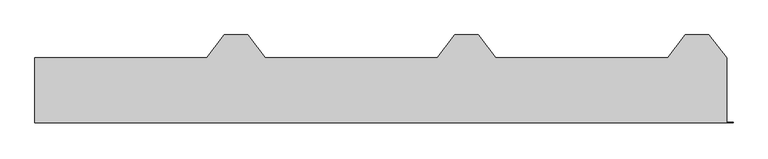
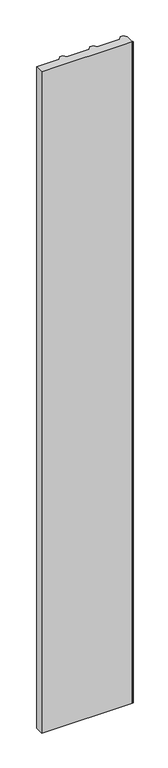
"""IFC4 building model written with IfcOpenShell, lengths in millimetres: plate geometry, Europanels_PolDeck MD T_Vt : PolDeck MD T 100/135."""

import ifcopenshell
import ifcopenshell.guid

model = None  # the IFC model being written
_history = None  # IfcOwnerHistory: only IFC2X3 demands one
_inside = {}  # id of a spatial element -> (the spatial element, [elements in it])
_under = {}  # id of a project, library or spatial element -> (it, [spatial elements below it])
_declared = {}  # id of a project -> (the project, [libraries it declares])
_typed = {}  # id of a type object -> (the type object, [elements of that type])
_made_of = {}  # id of a material, layer set ... -> (it, [elements and type objects made of it])


def new_model(schema):
    """Start an empty IFC model of exactly this schema.

    Asked for "IFC4X3", IfcOpenShell would pick the latest addendum, in which some entities
    have other attributes; the version numbers below select the first issue.
    IFC2X3 requires an IfcOwnerHistory on every rooted entity: one is made here for all.
    """
    global model, _history
    if schema == "IFC4X3":
        model = ifcopenshell.file(schema_version=(4, 3, 0, 0))
    else:
        model = ifcopenshell.file(schema=schema)
    _inside.clear()
    _under.clear()
    _declared.clear()
    _typed.clear()
    _made_of.clear()
    _history = None
    if model.schema == "IFC2X3":
        org = make("IfcOrganization", Name="unknown")
        user = make(
            "IfcPersonAndOrganization",
            ThePerson=make("IfcPerson", FamilyName="unknown"),
            TheOrganization=org,
        )
        app = make(
            "IfcApplication",
            ApplicationDeveloper=org,
            Version="unknown",
            ApplicationFullName="unknown",
            ApplicationIdentifier="unknown",
        )
        _history = make(
            "IfcOwnerHistory",
            OwningUser=user,
            OwningApplication=app,
            ChangeAction="ADDED",
            CreationDate=0,
        )
    return model


def make(cls, **values):
    """One entity of the class cls with the attributes given. An attribute that is None is left unset."""
    return model.create_entity(
        cls, **{name: value for name, value in values.items() if value is not None}
    )


def rooted(cls, **values):
    """An entity with a GlobalId (a new one), such as an element, a storey or a relation."""
    return make(cls, GlobalId=ifcopenshell.guid.new(), OwnerHistory=_history, **values)


def si_unit(unit_type, name, prefix=None):
    """IfcSIUnit, for example si_unit("LENGTHUNIT", "METRE", prefix="MILLI")."""
    return make("IfcSIUnit", UnitType=unit_type, Prefix=prefix, Name=name)


def assignment(units):
    """IfcUnitAssignment: the units of a project."""
    return None if units is None else make("IfcUnitAssignment", Units=units)


def point(xyz):
    """IfcCartesianPoint."""
    return None if xyz is None else make("IfcCartesianPoint", Coordinates=xyz)


def direction(xyz):
    """IfcDirection."""
    return None if xyz is None else make("IfcDirection", DirectionRatios=xyz)


def frame(location, z_axis=None, x_axis=None):
    """IfcAxis2Placement3D, a coordinate frame: its origin and axes. An axis left out is left unset."""
    return make(
        "IfcAxis2Placement3D",
        Location=point(location),
        Axis=direction(z_axis),
        RefDirection=direction(x_axis),
    )


def origin():
    """The frame at (0, 0, 0) with its axes left unset."""
    return frame((0.0, 0.0, 0.0))


def origin_with_axes():
    """The frame at (0, 0, 0) with the z axis (0, 0, 1) and the x axis (1, 0, 0) written out."""
    return frame((0.0, 0.0, 0.0), z_axis=(0.0, 0.0, 1.0), x_axis=(1.0, 0.0, 0.0))


def place(relative_to, where):
    """IfcLocalPlacement: puts the frame where relative to a parent placement (None: the world)."""
    return make(
        "IfcLocalPlacement", PlacementRelTo=relative_to, RelativePlacement=where
    )


def context(
    kind, dimensions, precision=None, world=None, true_north=None, identifier=None
):
    """IfcGeometricRepresentationContext, for example the 3D "Model" context."""
    return make(
        "IfcGeometricRepresentationContext",
        ContextIdentifier=identifier,
        ContextType=kind,
        CoordinateSpaceDimension=dimensions,
        Precision=precision,
        WorldCoordinateSystem=world,
        TrueNorth=true_north,
    )


def project(units=None, contexts=None):
    """IfcProject with its units and contexts."""
    return rooted(
        "IfcProject",
        Name="project",
        RepresentationContexts=contexts,
        UnitsInContext=assignment(units),
    )


def spatial(cls, under=None, at=None, **own):
    """A site, building, storey or space (cls), placed at a placement, below another one or the project."""
    s = rooted(cls, ObjectPlacement=at, **own)
    if under is not None:
        _under.setdefault(under.id(), (under, []))[1].append(s)
    return s


def polyline(points):
    """IfcPolyline through the points."""
    return make("IfcPolyline", Points=[point(p) for p in points])


def outline(outer, holes=None, kind="AREA"):
    """IfcArbitraryClosedProfileDef: a profile drawn as a closed curve; with holes, ...WithVoids."""
    if holes is None:
        return make("IfcArbitraryClosedProfileDef", ProfileType=kind, OuterCurve=outer)
    return make(
        "IfcArbitraryProfileDefWithVoids",
        ProfileType=kind,
        OuterCurve=outer,
        InnerCurves=holes,
    )


def extrude(swept, where, along, depth):
    """IfcExtrudedAreaSolid: the profile swept, set in the frame where, extruded along a direction by depth."""
    return make(
        "IfcExtrudedAreaSolid",
        SweptArea=swept,
        Position=where,
        ExtrudedDirection=direction(along),
        Depth=depth,
    )


def faces_of(points, faces, orient=None, outer=None):
    """IfcFace entities. A face is a list of loops; a loop is a list of indices into points, from 0.

    orient and outer hold one flag for each loop. By default every Orientation is true, the
    first loop of a face is its IfcFaceOuterBound and the others are IfcFaceBound.
    """
    made = []
    for i, loops in enumerate(faces):
        bounds = []
        for j, loop in enumerate(loops):
            is_outer = j == 0 if outer is None else outer[i][j]
            bounds.append(
                make(
                    "IfcFaceOuterBound" if is_outer else "IfcFaceBound",
                    Bound=make("IfcPolyLoop", Polygon=[points[k] for k in loop]),
                    Orientation=True if orient is None else orient[i][j],
                )
            )
        made.append(make("IfcFace", Bounds=bounds))
    return made


def faceted_brep(points, faces, orient=None, outer=None, voids=None):
    """IfcFacetedBrep: a solid bounded by flat faces; with voids (closed shells), ...WithVoids."""
    shared = [point(p) for p in points]
    hull = make("IfcClosedShell", CfsFaces=faces_of(shared, faces, orient, outer))
    if voids is None:
        return make("IfcFacetedBrep", Outer=hull)
    return make(
        "IfcFacetedBrepWithVoids",
        Outer=hull,
        Voids=[
            make(cls, CfsFaces=faces_of(shared, fs, o, b)) for cls, fs, o, b in voids
        ],
    )


def shape(context_of_items, identifier, shape_type, items):
    """IfcShapeRepresentation: the items that make up one representation, for example the "Body"."""
    return make(
        "IfcShapeRepresentation",
        ContextOfItems=context_of_items,
        RepresentationIdentifier=identifier,
        RepresentationType=shape_type,
        Items=items,
    )


def source(mapping_origin, context_of_items, identifier, shape_type, items):
    """IfcRepresentationMap: a shape defined once, which mapped items show again and again."""
    return make(
        "IfcRepresentationMap",
        MappingOrigin=mapping_origin,
        MappedRepresentation=shape(context_of_items, identifier, shape_type, items),
    )


def transform(
    local_origin,
    x_axis=None,
    y_axis=None,
    z_axis=None,
    scale=None,
    scale2=None,
    scale3=None,
    uniform=True,
):
    """IfcCartesianTransformationOperator3D, or its non-uniform kind. x_axis, y_axis, z_axis: its Axis1, 2, 3."""
    if uniform:
        return make(
            "IfcCartesianTransformationOperator3D",
            Axis1=direction(x_axis),
            Axis2=direction(y_axis),
            LocalOrigin=point(local_origin),
            Scale=scale,
            Axis3=direction(z_axis),
        )
    return make(
        "IfcCartesianTransformationOperator3DnonUniform",
        Axis1=direction(x_axis),
        Axis2=direction(y_axis),
        LocalOrigin=point(local_origin),
        Scale=scale,
        Axis3=direction(z_axis),
        Scale2=scale2,
        Scale3=scale3,
    )


def mapped(mapping_source, mapping_target):
    """IfcMappedItem: shows the shape of a source again, moved by a transform."""
    return make(
        "IfcMappedItem", MappingSource=mapping_source, MappingTarget=mapping_target
    )


def made_of(thing, what):
    """Note that an element or type object is made of a material, layer set ...; save() writes the relation."""
    if what is not None:
        _made_of.setdefault(what.id(), (what, []))[1].append(thing)
    return thing


def element(
    cls,
    number,
    at=None,
    inside=None,
    cuts=None,
    type_object=None,
    material=None,
    context=None,
    identifier="Body",
    shape_type=None,
    held_by="IfcProductDefinitionShape",
    body=None,
    shapes=None,
    **own,
):
    """One element of the class cls, such as IfcWall. Its Tag is "e" and its number.

    at: its placement. inside: the storey or other place that contains it. cuts: it is an
    opening in that element (IfcRelVoidsElement). A single representation is given by context,
    identifier, shape_type and body (its items); several are given by shapes. held_by: the class
    of the entity that holds the representations. save() writes the other relations.
    """
    e = rooted(cls, Tag="e%d" % number, ObjectPlacement=at, **own)
    if body is not None:
        shapes = [shape(context, identifier, shape_type, body)]
    if shapes is not None:
        e.Representation = make(held_by, Representations=shapes)
    if inside is not None:
        _inside.setdefault(inside.id(), (inside, []))[1].append(e)
    if cuts is not None:
        rooted(
            "IfcRelVoidsElement", RelatingBuildingElement=cuts, RelatedOpeningElement=e
        )
    if type_object is not None:
        _typed.setdefault(type_object.id(), (type_object, []))[1].append(e)
    return made_of(e, material)


def aggregate(whole, parts):
    """IfcRelAggregates: a whole, such as a stair, and the parts it consists of."""
    return rooted("IfcRelAggregates", RelatingObject=whole, RelatedObjects=parts)


def save(model, path):
    """Write the relations noted so far, then the file.

    IfcRelAggregates (storeys below a building ...), IfcRelContainedInSpatialStructure (elements
    in a storey), IfcRelDefinesByType, IfcRelAssociatesMaterial and IfcRelDeclares: one each for
    every whole, place, type object, material and project.
    """
    for whole, parts in _under.values():
        aggregate(whole, parts)
    for where, things in _inside.values():
        rooted(
            "IfcRelContainedInSpatialStructure",
            RelatedElements=things,
            RelatingStructure=where,
        )
    for kind, things in _typed.values():
        rooted("IfcRelDefinesByType", RelatedObjects=things, RelatingType=kind)
    for what, things in _made_of.values():
        rooted("IfcRelAssociatesMaterial", RelatedObjects=things, RelatingMaterial=what)
    for by, libraries in _declared.values():
        rooted("IfcRelDeclares", RelatingContext=by, RelatedDefinitions=libraries)
    model.write(path)


def plate_fbea0b83(model_context):
    return source(origin(), model_context, "Body", "SolidModel", [
        faceted_brep([(-485.0371719, -50.0, 8180.0), (574.9583523, -50.0, 8180.0), (574.9583523, 50.0, 8180.0), (547.9918013, 85.0, 8180.0), (512.0081987, 85.0, 8180.0), (485.0416477, 50.0, 8180.0), (221.625019, 50.0, 8180.0), (194.658468, 85.0, 8180.0), (158.6748653, 85.0, 8180.0), (131.7083144, 50.0, 8180.0), (-131.7083144, 50.0, 8180.0), (-158.6748653, 85.0, 8180.0), (-194.658468, 85.0, 8180.0), (-221.625019, 50.0, 8180.0), (-485.037171, 50.0, 8180.0), (574.9583523, -50.0, 0.0), (-485.0371719, -50.0, 0.0), (-485.037171, 49.9941896, 0.0), (-221.625019, 50.0, 0.0), (-194.658468, 85.0, 0.0), (-158.6748653, 85.0, 0.0), (-131.7083144, 50.0, 0.0), (131.7083144, 50.0, 0.0), (158.6748653, 85.0, 0.0), (194.658468, 85.0, 0.0), (221.625019, 50.0, 0.0), (485.0416477, 50.0, 0.0), (512.0081987, 85.0, 0.0), (547.9918013, 85.0, 0.0), (574.9583523, 50.0, 0.0)], [[[0, 1, 2, 3, 4, 5, 6, 7, 8, 9, 10, 11, 12, 13, 14]], [[15, 16, 17, 18, 19, 20, 21, 22, 23, 24, 25, 26, 27, 28, 29]], [[1, 0, 16, 15]], [[4, 3, 28, 27]], [[8, 7, 24, 23]], [[12, 11, 20, 19]], [[1, 15, 29, 2]], [[16, 0, 14, 17]], [[13, 18, 17, 14]], [[18, 13, 12, 19]], [[10, 21, 20, 11]], [[21, 10, 9, 22]], [[22, 9, 8, 23]], [[6, 25, 24, 7]], [[25, 6, 5, 26]], [[26, 5, 4, 27]], [[3, 2, 29, 28]]]),
        extrude(outline(polyline([(585.0526435, -50.0), (574.9583523, -50.0), (574.9583523, -49.1691383), (585.0526435, -49.1691383), (585.0526435, -50.0)])), origin_with_axes(), (0.0, 0.0, 1.0), 8180.0),
    ])


if __name__ == "__main__":
    model = new_model("IFC4")
    model_context = context("Model", 3, world=origin())
    ifc_project = project(units=[si_unit("LENGTHUNIT", "METRE", prefix="MILLI")], contexts=[model_context])
    site = spatial("IfcSite", under=ifc_project)
    building = spatial("IfcBuilding", under=site)
    placement = place(None, origin())
    plate_shape = plate_fbea0b83(model_context)
    element("IfcPlate", 1, ObjectType="Europanels_PolDeck MD T_Vt : PolDeck MD T 100/135", at=placement, inside=building, context=model_context, shape_type="MappedRepresentation", body=[
        mapped(plate_shape, transform((0.0, 0.0, 0.0), x_axis=(1.0, 0.0, 0.0), y_axis=(0.0, 1.0, 0.0), z_axis=(0.0, 0.0, 1.0))),
    ])
    save(model, "model.ifc")
